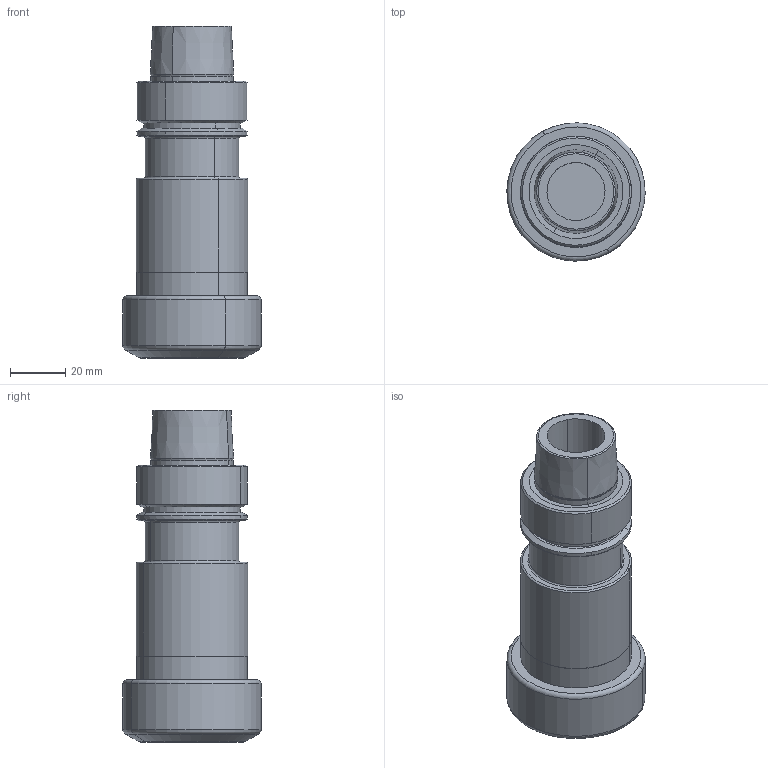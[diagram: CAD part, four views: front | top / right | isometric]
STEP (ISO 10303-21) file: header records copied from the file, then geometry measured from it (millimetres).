
FILE_DESCRIPTION(('CATIA V5 STEP','CAx-IF Rec.Pracs.--- Model Styling and Organization---1.2---2011-12-15'),'2;1');
FILE_NAME('\\nas01\drv1\utils\eitdev\rte\eit\transmagicconvert\db\out\635925098051363148\4561317-L-B.stp','2016-03-02T08:03:36+00:00',('none'),('none'),'CATIA Version 5 Release 21 SP 5 (IN-10)','CATIA V5 STEP AP214','none');
FILE_SCHEMA(('AUTOMOTIVE_DESIGN { 1 0 10303 214 1 1 1 1 }'));
Length unit declared in the file: millimetre
Products named in the file (1): HSK A 40 ER32X100
Bounding box: 49.99 x 49.99 x 120 mm (x, y, z)
Volume: 106420 mm3; surface area: 25266 mm2
Topology: 1 solids, 1 shells, 74 faces, 160 edges, 95 vertices
Faces by surface type: cylinder 24, cone 22, torus 18, plane 10
Entity records: 1911 total; most frequent: CARTESIAN_POINT 440, ORIENTED_EDGE 316, DIRECTION 238, EDGE_CURVE 158, AXIS2_PLACEMENT_3D 149, CIRCLE 104, VERTEX_POINT 95, EDGE_LOOP 83
